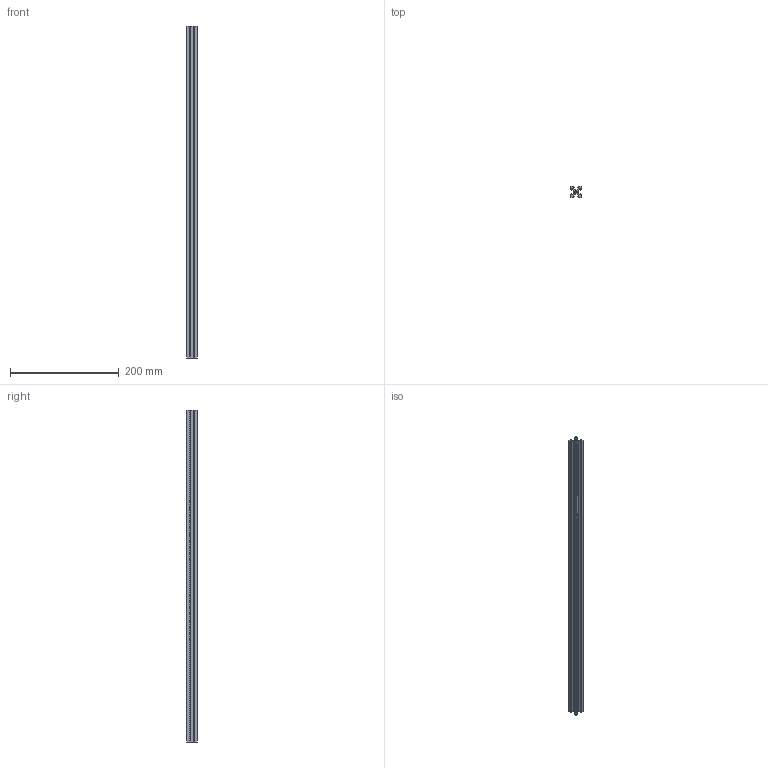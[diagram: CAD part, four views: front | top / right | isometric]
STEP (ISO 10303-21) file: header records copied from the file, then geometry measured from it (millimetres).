
FILE_DESCRIPTION(/* description */ ('STEP AP242 Edition 2','CAx-IF Rec.Pracs.---Representation and Presentation of Product Manufacturing Information (PMI)---4.0---2014-10-13','CAx-IF Rec.Pracs.---3D Tessellated Geometry---0.4---2014-09-14','2;1','CAx-IF Rec.Pracs.---User Defined Attributes---1.5---2016-08-15'),/* implementation_level */ '2;1');
FILE_NAME(/* name */ '20 X 20 mm',/* time_stamp */ '2025-11-29T19:54:06Z',/* author */ (''),/* organization */ (''),/* preprocessor_version */ 'ST-DEVELOPER v20',/* originating_system */ 'ONSHAPE BY PTC INC, 1.207',/* authorisation */ ' ');
FILE_SCHEMA (('AP242_MANAGED_MODEL_BASED_3D_ENGINEERING_MIM_LF { 1 0 10303 442 3 1 4 }'));
Length unit declared in the file: metre
Products named in the file (1): 20 X 20 mm Extrusion Sample Part v1
Bounding box: 20 x 20 x 610 mm (x, y, z)
Volume: 102010.1 mm3; surface area: 94067.7 mm2
Topology: 1 solids, 1 shells, 91 faces, 291 edges, 202 vertices
Faces by surface type: plane 46, cylinder 45
Full cylindrical faces by diameter (mm): 4 x1
Entity records: 3288 total; most frequent: CARTESIAN_POINT 584, ORIENTED_EDGE 580, DIRECTION 564, EDGE_CURVE 290, VERTEX_POINT 202, LINE 200, VECTOR 200, AXIS2_PLACEMENT_3D 182
